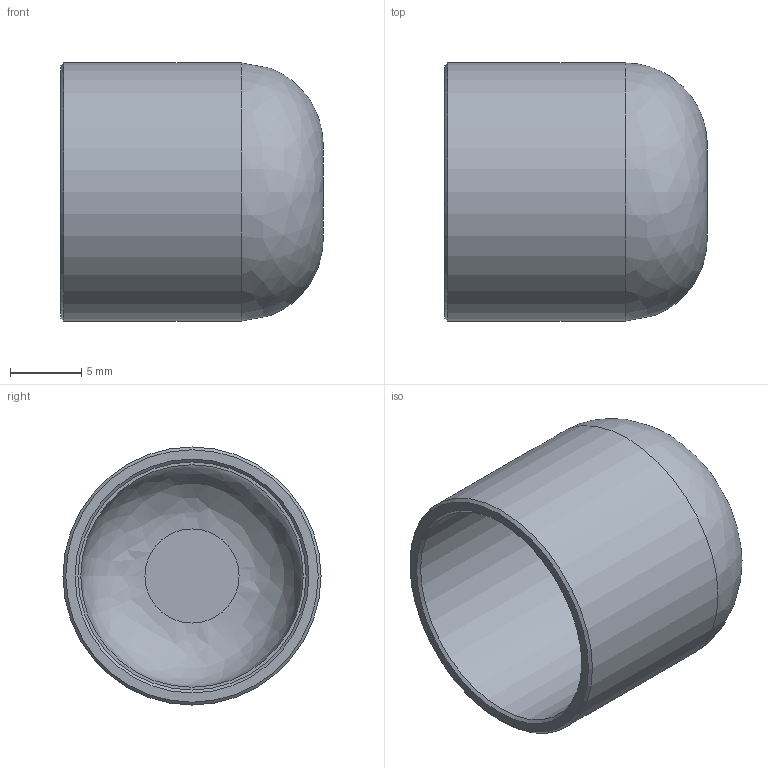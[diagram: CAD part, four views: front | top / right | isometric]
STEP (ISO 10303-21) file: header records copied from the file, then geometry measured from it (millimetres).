
FILE_DESCRIPTION((''),'2;1');
FILE_NAME('G:\SANHA-Ternat\Technik\Management\Bouwmaten + markeringen\z-maattekeningen 3D\29000s\2930158_3d.stp','2017-08-04T13:12:28',('vdvijverd'),(''),'Autodesk Inventor 2009','Autodesk Inventor 2009','');
FILE_SCHEMA(('AUTOMOTIVE_DESIGN { 1 0 10303 214 1 1 1 1 }'));
Length unit declared in the file: millimetre
Products named in the file (1): 2930158_3d
Bounding box: 18.4 x 18.09 x 18.09 mm (x, y, z)
Volume: 1141.6 mm3; surface area: 2153.4 mm2
Topology: 1 solids, 1 shells, 11 faces, 17 edges, 10 vertices
Faces by surface type: plane 4, cylinder 3, cone 2, bspline 2
Full cylindrical faces by diameter (mm): 15.595 x1, 15.995 x1, 18.095 x1
Entity records: 320 total; most frequent: CARTESIAN_POINT 120, DIRECTION 40, AXIS2_PLACEMENT_3D 20, ORIENTED_EDGE 20, EDGE_LOOP 20, FACE_OUTER_BOUND 11, ADVANCED_FACE 11, VERTEX_POINT 10
